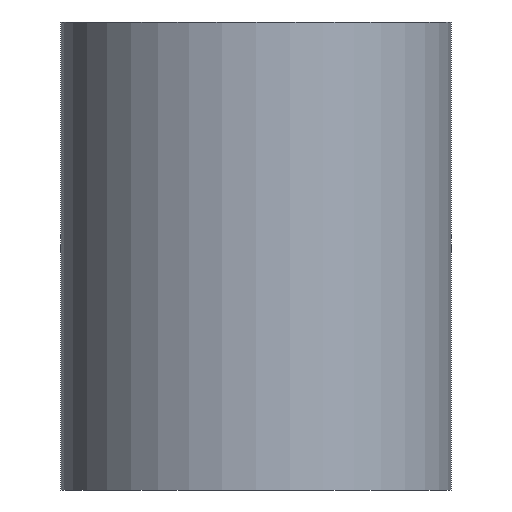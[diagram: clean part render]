
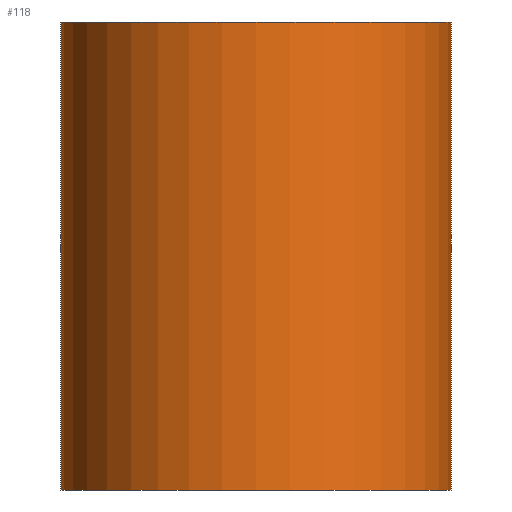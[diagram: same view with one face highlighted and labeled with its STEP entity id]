
A CAD part, front view. The second image highlights one B-rep face of the part: STEP entity #118.
In plain terms, the highlighted cylindrical face has radius 50 mm (diameter 100 mm), a partial arc.
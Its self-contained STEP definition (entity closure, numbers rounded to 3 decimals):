
#100=CYLINDRICAL_SURFACE('',#199,50.);
#104=FACE_OUTER_BOUND('',#132,.T.);
#107=LINE('',#257,#111);
#108=LINE('',#258,#112);
#111=VECTOR('',#228,1.);
#112=VECTOR('',#229,1.);
#118=ADVANCED_FACE('',(#104),#100,.T.);
#132=EDGE_LOOP('',(#153,#154,#155,#156));
#153=ORIENTED_EDGE('',*,*,#175,.F.);
#154=ORIENTED_EDGE('',*,*,#174,.T.);
#155=ORIENTED_EDGE('',*,*,#176,.T.);
#156=ORIENTED_EDGE('',*,*,#165,.F.);
#157=VERTEX_POINT('',#236);
#158=VERTEX_POINT('',#237);
#163=VERTEX_POINT('',#253);
#164=VERTEX_POINT('',#254);
#165=EDGE_CURVE('',#157,#158,#177,.T.);
#174=EDGE_CURVE('',#164,#163,#184,.T.);
#175=EDGE_CURVE('',#164,#157,#107,.T.);
#176=EDGE_CURVE('',#163,#158,#108,.T.);
#177=CIRCLE('',#186,50.);
#184=CIRCLE('',#196,50.);
#186=AXIS2_PLACEMENT_3D('',#235,#202,#203);
#196=AXIS2_PLACEMENT_3D('',#255,#224,#225);
#199=AXIS2_PLACEMENT_3D('',#260,#232,#233);
#202=DIRECTION('',(0.,0.,1.));
#203=DIRECTION('',(0.,1.,0.));
#224=DIRECTION('',(0.,0.,1.));
#225=DIRECTION('',(0.,1.,0.));
#228=DIRECTION('',(0.,0.,1.));
#229=DIRECTION('',(0.,0.,1.));
#232=DIRECTION('',(0.,0.,1.));
#233=DIRECTION('',(0.,-1.,0.));
#235=CARTESIAN_POINT('',(0.,0.,120.));
#236=CARTESIAN_POINT('',(-50.,0.,120.));
#237=CARTESIAN_POINT('',(50.,0.,120.));
#253=CARTESIAN_POINT('',(50.,0.,0.));
#254=CARTESIAN_POINT('',(-50.,0.,0.));
#255=CARTESIAN_POINT('',(0.,0.,0.));
#257=CARTESIAN_POINT('',(-50.,0.,120.));
#258=CARTESIAN_POINT('',(50.,0.,120.));
#260=CARTESIAN_POINT('',(0.,0.,0.));
